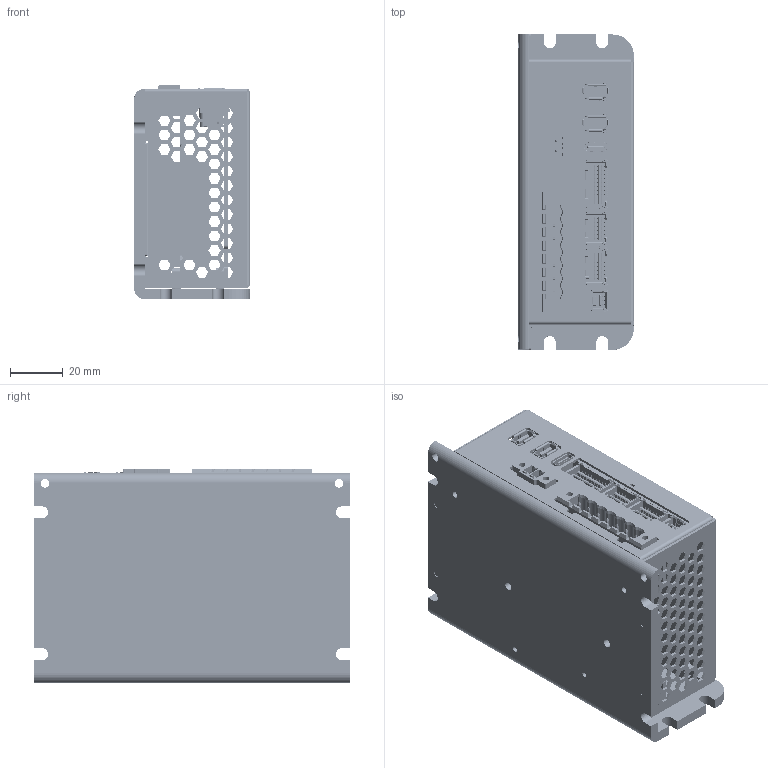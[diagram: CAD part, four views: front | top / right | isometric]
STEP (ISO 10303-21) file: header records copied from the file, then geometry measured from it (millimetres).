
FILE_DESCRIPTION (( 'STEP AP203' ), '1' );
FILE_NAME ('P-BAS_CAN_L-SHAPE.STEP', '2024-06-10T11:42:43', ( '' ), ( '' ), 'SwSTEP 2.0', 'SolidWorks 2022', '' );
FILE_SCHEMA (( 'CONFIG_CONTROL_DESIGN' ));
Length unit declared in the file: millimetre
Products named in the file (1): P-BAS_CAN_L-SHAPE
Bounding box: 44 x 120 x 81.5 mm (x, y, z)
Volume: 100009.4 mm3; surface area: 105424.3 mm2
Topology: 19 solids, 19 shells, 8461 faces, 23930 edges, 15723 vertices
Faces by surface type: plane 6580, cylinder 1459, bspline 334, cone 52, sphere 36
Full cylindrical faces by diameter (mm): 0.4 x14, 0.457 x1, 0.6 x80, 0.635 x14, 0.65 x14, 0.71 x70, 0.8 x12, 0.9 x4, 1 x33, 1.02 x12, 1.2 x6, 1.25 x2, 1.3 x8, 1.4 x7, 1.6 x1, 2.05 x2, 2.146 x2, 2.261 x4, 2.5 x8, 2.845 x4, 3.3 x4, 3.4 x8, 3.81 x4, 4.851 x4, 6.4 x1, 7 x6
Entity records: 287479 total; most frequent: CARTESIAN_POINT 69059, ORIENTED_EDGE 46868, DIRECTION 41673, EDGE_CURVE 23434, VECTOR 19523, LINE 19523, VERTEX_POINT 15582, AXIS2_PLACEMENT_3D 11075
